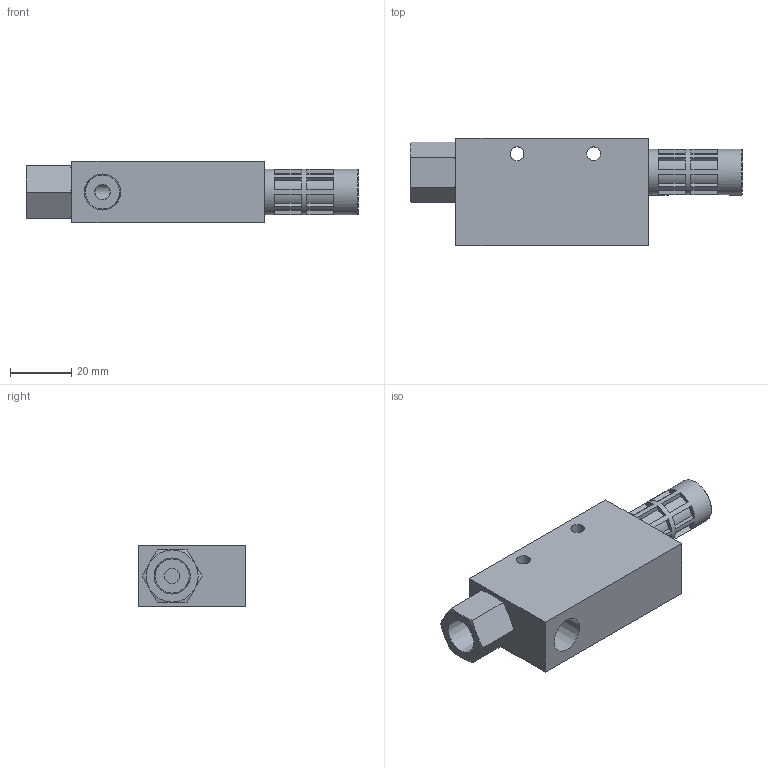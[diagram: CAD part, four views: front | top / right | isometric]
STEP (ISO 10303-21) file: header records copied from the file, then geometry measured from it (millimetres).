
FILE_DESCRIPTION(('STEP AP203'),'1');
FILE_NAME('BCV-15HS_3D.stp','2024-06-22T05:48:01',(' '),(' '),'Spatial InterOp 3D',' ',' ');
FILE_SCHEMA(('CONFIG_CONTROL_DESIGN'));
Length unit declared in the file: millimetre
Products named in the file (3): BCV-15HSNS; BMSM-01
Assembly tree (2 placements, depth 2):
  (unnamed)
    BCV-15HSNS
    BMSM-01
Bounding box: 108.5 x 35 x 20 mm (x, y, z)
Volume: 46373.1 mm3; surface area: 15392.7 mm2
Topology: 2 solids, 2 shells, 126 faces, 288 edges, 187 vertices
Faces by surface type: plane 84, cylinder 25, cone 16, torus 1
Full cylindrical faces by diameter (mm): 4.5 x2, 5 x2, 8.4 x1, 11.445 x1, 11.776 x1, 13.157 x1, 15 x1
Entity records: 3634 total; most frequent: CARTESIAN_POINT 641, DIRECTION 606, ORIENTED_EDGE 542, EDGE_CURVE 271, AXIS2_PLACEMENT_3D 230, VERTEX_POINT 185, EDGE_LOOP 170, LINE 146
